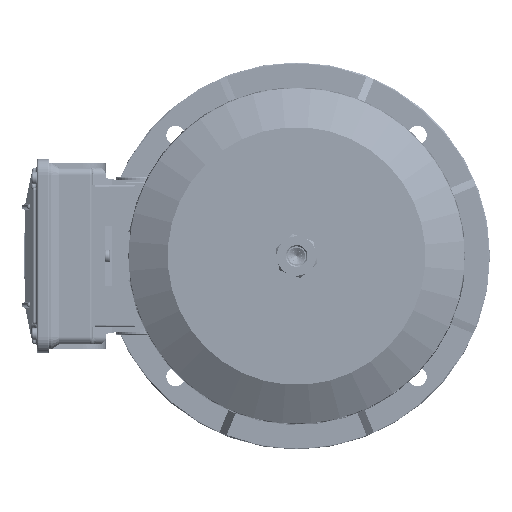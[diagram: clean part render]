
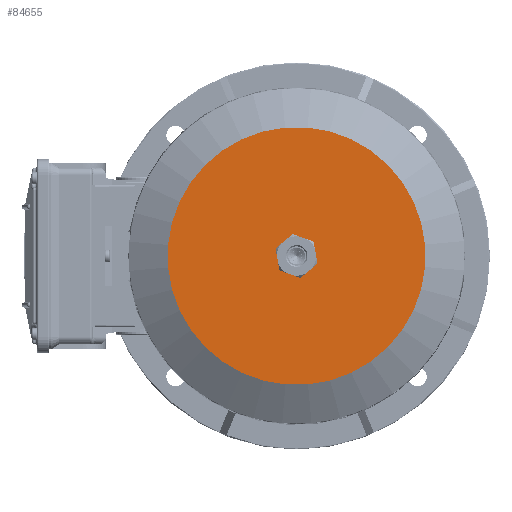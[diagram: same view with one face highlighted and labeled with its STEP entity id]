
A CAD part, left-side view. The second image highlights one B-rep face of the part: STEP entity #84655.
In plain terms, the highlighted planar face has unit normal (-1, 0, 0) as drawn and (0, -1, 0) by its records, which use the part's own axes.
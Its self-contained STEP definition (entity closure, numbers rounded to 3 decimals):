
#3261 = AXIS2_PLACEMENT_3D ( 'NONE', #60837, #20885, #91062 ) ;
#4669 = FACE_OUTER_BOUND ( 'NONE', #9696, .T. ) ;
#8667 = EDGE_LOOP ( 'NONE', ( #29440, #69699 ) ) ;
#9696 = EDGE_LOOP ( 'NONE', ( #86086, #110883 ) ) ;
#9773 = DIRECTION ( 'NONE',  ( 0., 1., 0. ) ) ;
#10816 = PLANE ( 'NONE',  #3261 ) ;
#13278 = DIRECTION ( 'NONE',  ( 0., 1., 0. ) ) ;
#20885 = DIRECTION ( 'NONE',  ( 0., -1., 0. ) ) ;
#22899 = CIRCLE ( 'NONE', #51742, 100. ) ;
#24179 = EDGE_CURVE ( 'NONE', #53211, #50415, #83624, .T. ) ;
#24818 = DIRECTION ( 'NONE',  ( 0., 1., 0. ) ) ;
#29440 = ORIENTED_EDGE ( 'NONE', *, *, #50107, .T. ) ;
#30268 = DIRECTION ( 'NONE',  ( 0., 1., 0. ) ) ;
#32797 = VERTEX_POINT ( 'NONE', #57696 ) ;
#45625 = CIRCLE ( 'NONE', #68652, 13.5 ) ;
#50107 = EDGE_CURVE ( 'NONE', #32797, #104853, #45625, .T. ) ;
#50415 = VERTEX_POINT ( 'NONE', #108690 ) ;
#51742 = AXIS2_PLACEMENT_3D ( 'NONE', #84957, #24818, #94984 ) ;
#53211 = VERTEX_POINT ( 'NONE', #76541 ) ;
#57696 = CARTESIAN_POINT ( 'NONE',  ( 0., 0., 13.5 ) ) ;
#60837 = CARTESIAN_POINT ( 'NONE',  ( -13.5, 0., 0. ) ) ;
#68652 = AXIS2_PLACEMENT_3D ( 'NONE', #73417, #13278, #83487 ) ;
#69699 = ORIENTED_EDGE ( 'NONE', *, *, #76683, .T. ) ;
#69909 = CARTESIAN_POINT ( 'NONE',  ( 0., 0., 0. ) ) ;
#73417 = CARTESIAN_POINT ( 'NONE',  ( 0., 0., 0. ) ) ;
#74462 = AXIS2_PLACEMENT_3D ( 'NONE', #90420, #30268, #100433 ) ;
#76541 = CARTESIAN_POINT ( 'NONE',  ( 0., 0., 100. ) ) ;
#76683 = EDGE_CURVE ( 'NONE', #104853, #32797, #81334, .T. ) ;
#79987 = DIRECTION ( 'NONE',  ( 0., 0., 1. ) ) ;
#81334 = CIRCLE ( 'NONE', #74462, 13.5 ) ;
#81616 = FACE_BOUND ( 'NONE', #8667, .T. ) ;
#83487 = DIRECTION ( 'NONE',  ( 0., 0., 1. ) ) ;
#83624 = CIRCLE ( 'NONE', #113136, 100. ) ;
#84655 = ADVANCED_FACE ( 'NONE', ( #81616, #4669 ), #10816, .T. ) ;
#84957 = CARTESIAN_POINT ( 'NONE',  ( 0., 0., 0. ) ) ;
#86086 = ORIENTED_EDGE ( 'NONE', *, *, #24179, .F. ) ;
#90420 = CARTESIAN_POINT ( 'NONE',  ( 0., 0., 0. ) ) ;
#91062 = DIRECTION ( 'NONE',  ( 0., 0., -1. ) ) ;
#94984 = DIRECTION ( 'NONE',  ( 0., 0., 1. ) ) ;
#100433 = DIRECTION ( 'NONE',  ( 0., 0., 1. ) ) ;
#104853 = VERTEX_POINT ( 'NONE', #118311 ) ;
#108690 = CARTESIAN_POINT ( 'NONE',  ( 0., 0., -100. ) ) ;
#110883 = ORIENTED_EDGE ( 'NONE', *, *, #130182, .F. ) ;
#113136 = AXIS2_PLACEMENT_3D ( 'NONE', #69909, #9773, #79987 ) ;
#118311 = CARTESIAN_POINT ( 'NONE',  ( 0., 0., -13.5 ) ) ;
#130182 = EDGE_CURVE ( 'NONE', #50415, #53211, #22899, .T. ) ;
